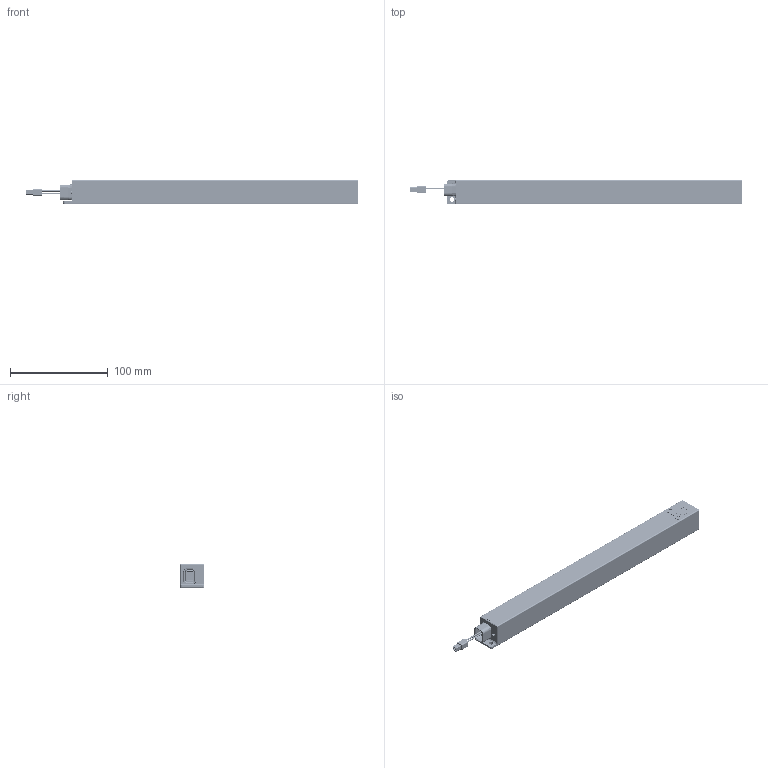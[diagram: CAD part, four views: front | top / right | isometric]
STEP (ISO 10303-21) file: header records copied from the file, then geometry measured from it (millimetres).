
FILE_DESCRIPTION(/* description */ ('ASSY, MINIACB PRODUCT, "MAGPIE"'),/* implementation_level */ '2;1');
FILE_NAME(/* name */ 'WEBSITE MODEL - ASSY, MAGPIE.step',/* time_stamp */ '2025-12-16T08:53:44-08:00',/* author */ (''),/* organization */ (''),/* preprocessor_version */ 'ST-DEVELOPER v20.1',/* originating_system */ 'Autodesk Translation Framework v14.21.0.0',/* authorisation */ '');
FILE_SCHEMA (('AUTOMOTIVE_DESIGN { 1 0 10303 214 3 1 1 }'));
Products named in the file (114): 151-0-130; 301-0080; 301-0080v8.1 LCM_V8.1 (updated 6_6_23) v1; Board_301-0080v8.1_LCM_V8.1_(updated_6_6_23); EVP-BB2A9B000; SML-LX0404SIUPGUSB; IC_FLASH_128M_SPI_133MHZ_8WPDFN; XC7A35T_236bga; FH12-15S-0.5SH; FH12-16S-0.5SH; ind_0402_cust; FS1403-5000-AS; USBULC6-2M6; DF40C-10DP; bga-12_3x4x0.5_1.6x2; ICM-20948; tssop-16ep (1); sot23-5 (1); dfn-10_3x3x0.5 (1); sot23-6 (1); msop-10 (1); CR_SOD-323_2L_ONS; TM4C123GH6ZRB; XTCLH10M000CHJA1P0; CAP_0402_cust; cap0201; res0201; cap_0805 (1); 0603_cust; cap_0402 (1); sod-523; sot883 (1); res_0603 (1); res_0201; res_0402 (1); res_0805; DF40C-40DP; 74LVC1G17GM-Q100X; msop-8; sot363 (1)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
Assembly tree (541 placements, depth 4):
  151-0-130
    301-0080
      301-0080v8.1 LCM_V8.1 (updated 6_6_23) v1
        Board_301-0080v8.1_LCM_V8.1_(updated_6_6_23)
        EVP-BB2A9B000
        CAP_0402_cust  x23
        cap0201  x56
        res0201  x125
        cap_0805 (1)  x17
        0603_cust  x9
        cap_0402 (1)  x4
        SML-LX0404SIUPGUSB
        sod-523  x2
        IC_FLASH_128M_SPI_133MHZ_8WPDFN
        XC7A35T_236bga
        FH12-15S-0.5SH
        FH12-16S-0.5SH
        ind_0402_cust
        sot883 (1)  x8
        res_0603 (1)  x4
        res_0201  x3
        res_0402 (1)  x5
        res_0805  x2
        FS1403-5000-AS
        DF40C-40DP  x2
        74LVC1G17GM-Q100X  x2
        USBULC6-2M6
        DF40C-10DP
        msop-8  x2
        bga-12_3x4x0.5_1.6x2
        ICM-20948
        sot363 (1)  x5
        tssop-16ep (1)
        sot23-5 (1)
        dfn-10_3x3x0.5 (1)
        sot23-6 (1)
        msop-10 (1)
        CR_SOD-323_2L_ONS
        TM4C123GH6ZRB
        XTCLH10M000CHJA1P0
        sot23 (1)  x2
    345-0102  x6
    151-0-000
      151-0-002
      301-0083
    PCB_301-0122v8.1_PCB,_MINI-ACB_INPUTS_BREAKOUT_FLEX
      Board_301-0122v8.1_PCB,_MINI-ACB_INPUTS_BREAKOUT_FLEX
      cap_0805  x6
      cap0201_1  x4
      CAP_1_uF_16V_0201
      dio_0603
      res_0201_1  x6
      res_0603  x2
      res_0402_1  x3
      res_0402
      TPS2121RUXT
    345-0084
    301-0123
      Board_301-0123_Mini_ACBV4.3
      ANT_1462350001
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Bounding box: 340.11 x 25.5 x 25.5 mm (x, y, z)
Volume: 79703.8 mm3; surface area: 123651.1 mm2
Topology: 2217 solids, 2223 shells, 35311 faces, 86664 edges, 54749 vertices
Faces by surface type: plane 29672, cylinder 3840, bspline 917, sphere 528, cone 232, torus 122
Full cylindrical faces by diameter (mm): 0.044 x2, 0.09 x1, 0.1 x1, 0.125 x2, 0.15 x9, 0.2 x20, 0.233 x1, 0.234 x2, 0.287 x1, 0.3 x165, 0.4 x5, 0.411 x1, 0.421 x2, 0.5 x5, 0.505 x1, 0.7 x2, 1 x13, 1.02 x1, 1.1 x6, 1.15 x11, 1.5 x2, 1.55 x2, 1.72 x6, 1.8 x6, 1.859 x4, 2 x15, 2.2 x4, 2.3 x2, 2.4 x1, 2.75 x1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
Entity records: 560302 total; most frequent: CARTESIAN_POINT 116097, ORIENTED_EDGE 90399, DIRECTION 86738, EDGE_CURVE 45229, LINE 37856, VECTOR 37856, VERTEX_POINT 29155, AXIS2_PLACEMENT_3D 24441
